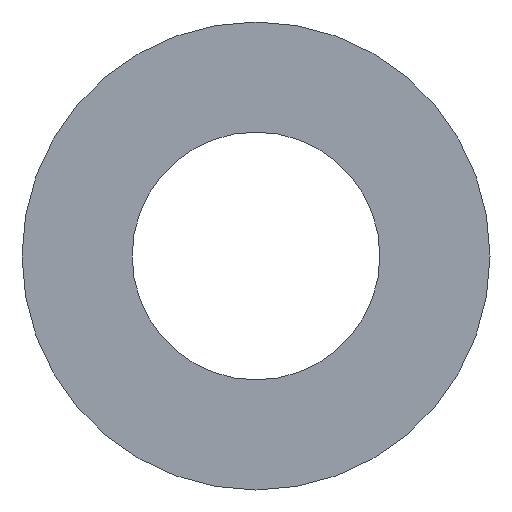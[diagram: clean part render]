
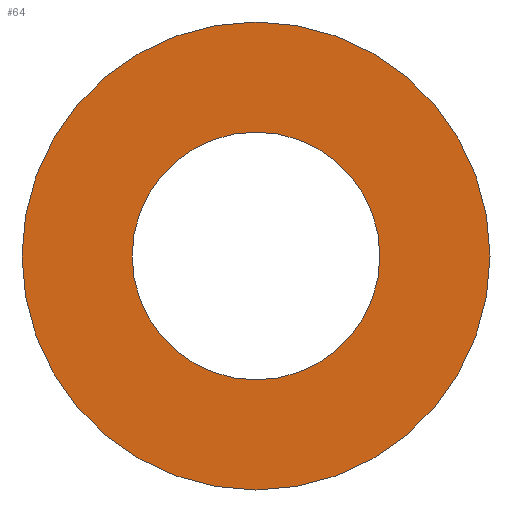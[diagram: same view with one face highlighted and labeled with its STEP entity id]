
A CAD part, left-side view. The second image highlights one B-rep face of the part: STEP entity #64.
In plain terms, the highlighted planar face has unit normal (-1, 0, 0).
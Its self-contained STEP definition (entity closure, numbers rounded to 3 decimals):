
#16=FACE_BOUND('',#28,.T.);
#18=PLANE('',#95);
#22=FACE_OUTER_BOUND('',#27,.T.);
#27=EDGE_LOOP('',(#57));
#28=EDGE_LOOP('',(#58));
#33=CIRCLE('',#89,4.5);
#36=CIRCLE('',#93,8.5);
#37=VERTEX_POINT('',#118);
#40=VERTEX_POINT('',#126);
#41=EDGE_CURVE('',#37,#37,#33,.T.);
#46=EDGE_CURVE('',#40,#40,#36,.T.);
#57=ORIENTED_EDGE('',*,*,#46,.T.);
#58=ORIENTED_EDGE('',*,*,#41,.T.);
#64=ADVANCED_FACE('',(#22,#16),#18,.T.);
#89=AXIS2_PLACEMENT_3D('',#119,#100,#101);
#93=AXIS2_PLACEMENT_3D('',#128,#110,#111);
#95=AXIS2_PLACEMENT_3D('',#130,#114,#115);
#100=DIRECTION('center_axis',(1.,0.,0.));
#101=DIRECTION('ref_axis',(0.,-1.,0.));
#110=DIRECTION('center_axis',(-1.,0.,0.));
#111=DIRECTION('ref_axis',(0.,-1.,0.));
#114=DIRECTION('center_axis',(-1.,0.,0.));
#115=DIRECTION('ref_axis',(0.,0.,1.));
#118=CARTESIAN_POINT('',(0.,4.5,0.));
#119=CARTESIAN_POINT('Origin',(0.,0.,0.));
#126=CARTESIAN_POINT('',(0.,8.5,0.));
#128=CARTESIAN_POINT('Origin',(0.,0.,0.));
#130=CARTESIAN_POINT('Origin',(0.,0.,0.));
